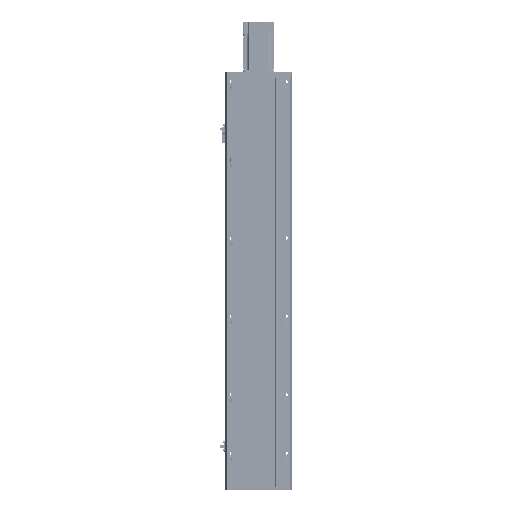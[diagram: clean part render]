
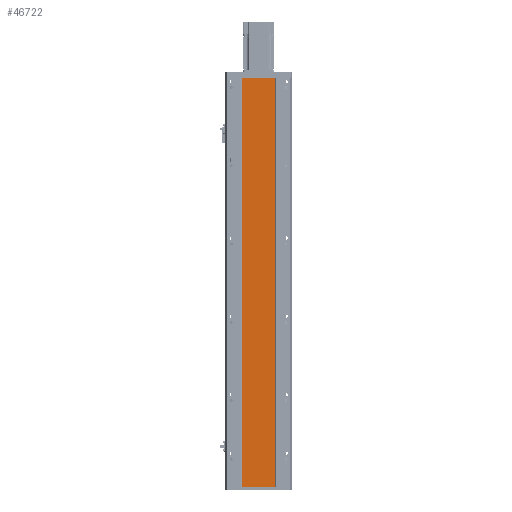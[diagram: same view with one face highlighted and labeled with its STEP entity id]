
A CAD part, front view. The second image highlights one B-rep face of the part: STEP entity #46722.
In plain terms, the highlighted planar face has unit normal (0, -1, 0).
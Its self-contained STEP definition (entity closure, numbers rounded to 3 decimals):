
#1340 = ORIENTED_EDGE ( 'NONE', *, *, #80725, .F. ) ;
#1812 = LINE ( 'NONE', #76433, #21074 ) ;
#15134 = ORIENTED_EDGE ( 'NONE', *, *, #95401, .F. ) ;
#15734 = EDGE_CURVE ( 'NONE', #66956, #91695, #105357, .T. ) ;
#16707 = CARTESIAN_POINT ( 'NONE',  ( -42., 0., -1045. ) ) ;
#21074 = VECTOR ( 'NONE', #35475, 1000. ) ;
#23748 = DIRECTION ( 'NONE',  ( 1., 0., 0. ) ) ;
#24180 = VERTEX_POINT ( 'NONE', #59088 ) ;
#24854 = ORIENTED_EDGE ( 'NONE', *, *, #15734, .T. ) ;
#27239 = VERTEX_POINT ( 'NONE', #105111 ) ;
#32731 = CARTESIAN_POINT ( 'NONE',  ( -42., 0., -1045. ) ) ;
#33958 = DIRECTION ( 'NONE',  ( 0., -1., 0. ) ) ;
#35475 = DIRECTION ( 'NONE',  ( 0., 0., 1. ) ) ;
#41415 = ORIENTED_EDGE ( 'NONE', *, *, #95511, .T. ) ;
#41639 = CARTESIAN_POINT ( 'NONE',  ( 42., 0., -1045. ) ) ;
#46722 = ADVANCED_FACE ( 'NONE', ( #74314 ), #83118, .T. ) ;
#59088 = CARTESIAN_POINT ( 'NONE',  ( -42., 0., 0. ) ) ;
#59141 = AXIS2_PLACEMENT_3D ( 'NONE', #16707, #33958, #91420 ) ;
#60339 = EDGE_LOOP ( 'NONE', ( #15134, #1340, #24854, #41415 ) ) ;
#66337 = DIRECTION ( 'NONE',  ( 0., 0., 1. ) ) ;
#66956 = VERTEX_POINT ( 'NONE', #32731 ) ;
#73151 = VECTOR ( 'NONE', #66337, 1000. ) ;
#74314 = FACE_OUTER_BOUND ( 'NONE', #60339, .T. ) ;
#74469 = LINE ( 'NONE', #89043, #88630 ) ;
#76270 = CARTESIAN_POINT ( 'NONE',  ( 42., 0., -1045. ) ) ;
#76433 = CARTESIAN_POINT ( 'NONE',  ( -42., 0., -1045. ) ) ;
#80725 = EDGE_CURVE ( 'NONE', #66956, #24180, #1812, .T. ) ;
#83118 = PLANE ( 'NONE',  #59141 ) ;
#88630 = VECTOR ( 'NONE', #97670, 1000. ) ;
#89043 = CARTESIAN_POINT ( 'NONE',  ( -42., 0., 0. ) ) ;
#89123 = CARTESIAN_POINT ( 'NONE',  ( -42., 0., -1045. ) ) ;
#91420 = DIRECTION ( 'NONE',  ( 0., 0., -1. ) ) ;
#91695 = VERTEX_POINT ( 'NONE', #76270 ) ;
#95052 = LINE ( 'NONE', #41639, #73151 ) ;
#95401 = EDGE_CURVE ( 'NONE', #24180, #27239, #74469, .T. ) ;
#95511 = EDGE_CURVE ( 'NONE', #91695, #27239, #95052, .T. ) ;
#97670 = DIRECTION ( 'NONE',  ( 1., 0., 0. ) ) ;
#102800 = VECTOR ( 'NONE', #23748, 1000. ) ;
#105111 = CARTESIAN_POINT ( 'NONE',  ( 42., 0., 0. ) ) ;
#105357 = LINE ( 'NONE', #89123, #102800 ) ;
